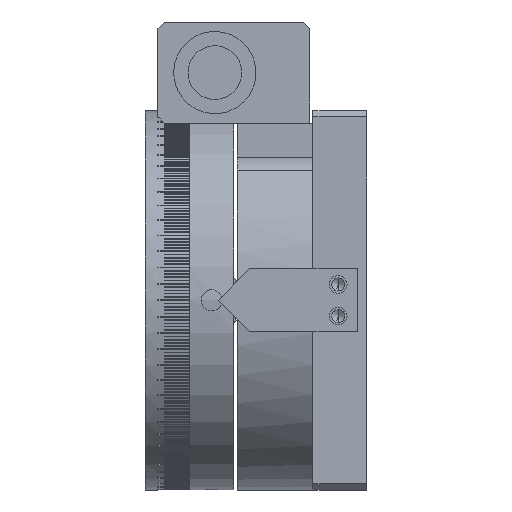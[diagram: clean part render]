
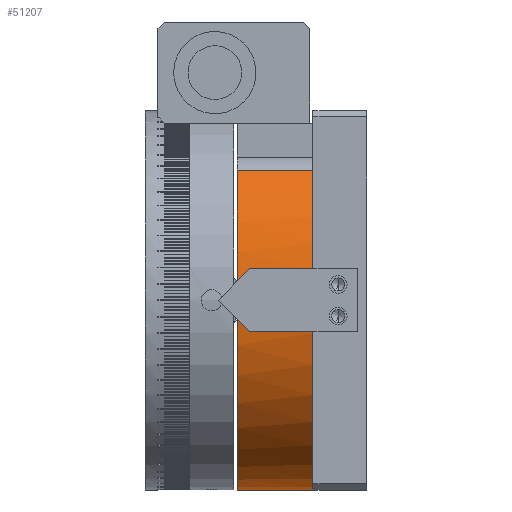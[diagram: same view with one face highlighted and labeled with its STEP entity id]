
A CAD part, left-side view. The second image highlights one B-rep face of the part: STEP entity #51207.
In plain terms, the highlighted cylindrical face has radius 30 mm (diameter 60 mm), a partial arc.
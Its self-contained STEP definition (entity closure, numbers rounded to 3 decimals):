
#2182 = LINE ( 'NONE', #8751, #50660 ) ;
#2571 = AXIS2_PLACEMENT_3D ( 'NONE', #42243, #52761, #32580 ) ;
#5049 = CARTESIAN_POINT ( 'NONE',  ( -30., -1.75, 0. ) ) ;
#5506 = ORIENTED_EDGE ( 'NONE', *, *, #27122, .T. ) ;
#5611 = CIRCLE ( 'NONE', #36968, 30. ) ;
#6955 = VERTEX_POINT ( 'NONE', #54445 ) ;
#8751 = CARTESIAN_POINT ( 'NONE',  ( -21.818, -1.75, 20.59 ) ) ;
#10858 = ORIENTED_EDGE ( 'NONE', *, *, #27118, .T. ) ;
#13222 = VERTEX_POINT ( 'NONE', #32362 ) ;
#13711 = CARTESIAN_POINT ( 'NONE',  ( 0., -1.75, 0. ) ) ;
#14699 = EDGE_CURVE ( 'NONE', #13222, #62580, #5611, .T. ) ;
#16319 = CARTESIAN_POINT ( 'NONE',  ( 0., -1.75, -30. ) ) ;
#17307 = CARTESIAN_POINT ( 'NONE',  ( 0., -1.75, 0. ) ) ;
#17453 = CARTESIAN_POINT ( 'NONE',  ( 0., 10.25, 0. ) ) ;
#26236 = ORIENTED_EDGE ( 'NONE', *, *, #31153, .T. ) ;
#27118 = EDGE_CURVE ( 'NONE', #37512, #40064, #32594, .T. ) ;
#27122 = EDGE_CURVE ( 'NONE', #6955, #62580, #2182, .T. ) ;
#27242 = VECTOR ( 'NONE', #64406, 1000. ) ;
#31153 = EDGE_CURVE ( 'NONE', #40064, #6955, #39507, .T. ) ;
#31395 = AXIS2_PLACEMENT_3D ( 'NONE', #17307, #52564, #47061 ) ;
#32362 = CARTESIAN_POINT ( 'NONE',  ( 0., 10.25, -30. ) ) ;
#32580 = DIRECTION ( 'NONE',  ( 0., 0., -1. ) ) ;
#32594 = CIRCLE ( 'NONE', #39583, 30. ) ;
#33343 = FACE_OUTER_BOUND ( 'NONE', #35950, .T. ) ;
#34823 = CARTESIAN_POINT ( 'NONE',  ( -21.818, 10.25, 20.59 ) ) ;
#35950 = EDGE_LOOP ( 'NONE', ( #56131, #10858, #26236, #5506, #53126 ) ) ;
#36968 = AXIS2_PLACEMENT_3D ( 'NONE', #17453, #58115, #37124 ) ;
#37124 = DIRECTION ( 'NONE',  ( 0., 0., 1. ) ) ;
#37512 = VERTEX_POINT ( 'NONE', #16319 ) ;
#38053 = CYLINDRICAL_SURFACE ( 'NONE', #2571, 30. ) ;
#39507 = CIRCLE ( 'NONE', #31395, 30. ) ;
#39583 = AXIS2_PLACEMENT_3D ( 'NONE', #13711, #63426, #63189 ) ;
#40064 = VERTEX_POINT ( 'NONE', #5049 ) ;
#42243 = CARTESIAN_POINT ( 'NONE',  ( 0., -1.75, 0. ) ) ;
#47061 = DIRECTION ( 'NONE',  ( 0., 0., 1. ) ) ;
#50660 = VECTOR ( 'NONE', #53348, 1000. ) ;
#51207 = ADVANCED_FACE ( 'NONE', ( #33343 ), #38053, .T. ) ;
#52564 = DIRECTION ( 'NONE',  ( 0., 1., 0. ) ) ;
#52761 = DIRECTION ( 'NONE',  ( 0., 1., 0. ) ) ;
#53126 = ORIENTED_EDGE ( 'NONE', *, *, #14699, .F. ) ;
#53348 = DIRECTION ( 'NONE',  ( 0., 1., 0. ) ) ;
#54445 = CARTESIAN_POINT ( 'NONE',  ( -21.818, -1.75, 20.59 ) ) ;
#56131 = ORIENTED_EDGE ( 'NONE', *, *, #57462, .F. ) ;
#56192 = LINE ( 'NONE', #59546, #27242 ) ;
#57462 = EDGE_CURVE ( 'NONE', #37512, #13222, #56192, .T. ) ;
#58115 = DIRECTION ( 'NONE',  ( 0., 1., 0. ) ) ;
#59546 = CARTESIAN_POINT ( 'NONE',  ( 0., -1.75, -30. ) ) ;
#62580 = VERTEX_POINT ( 'NONE', #34823 ) ;
#63189 = DIRECTION ( 'NONE',  ( 0., 0., 1. ) ) ;
#63426 = DIRECTION ( 'NONE',  ( 0., 1., 0. ) ) ;
#64406 = DIRECTION ( 'NONE',  ( 0., 1., 0. ) ) ;
